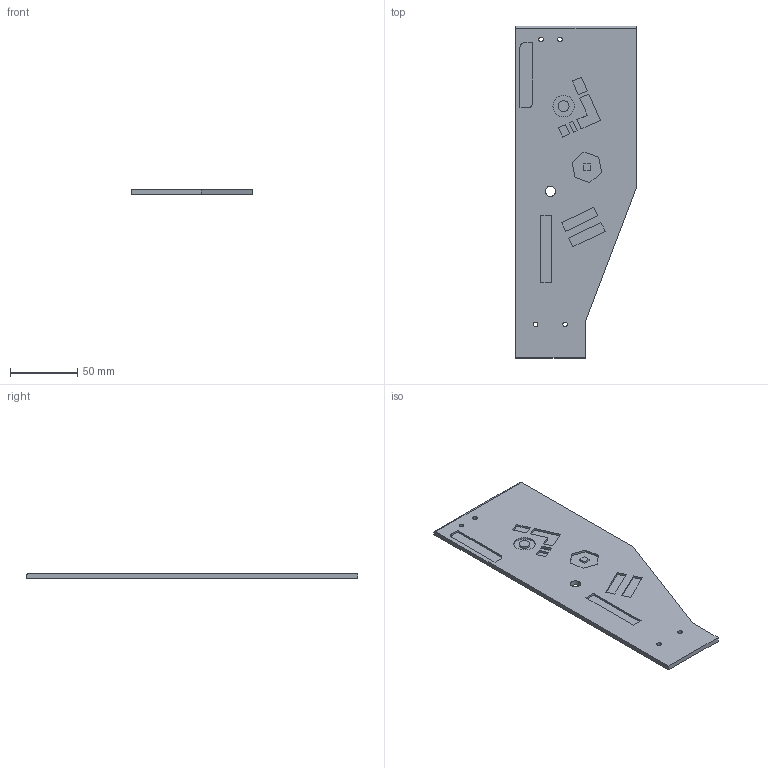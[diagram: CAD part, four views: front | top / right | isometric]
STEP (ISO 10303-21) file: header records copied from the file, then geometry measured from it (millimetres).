
FILE_DESCRIPTION(/* description */ ('STEP AP242 Edition 2','CAx-IF Rec.Pracs.---Representation and Presentation of Product Manufacturing Information (PMI)---4.0---2014-10-13','CAx-IF Rec.Pracs.---3D Tessellated Geometry---0.4---2014-09-14','2;1','CAx-IF Rec.Pracs.---User Defined Attributes---1.5---2016-08-15'),/* implementation_level */ '2;1');
FILE_NAME(/* name */ 'Arm Parts - Arm1(Other Side)',/* time_stamp */ '2026-04-22T00:04:13Z',/* author */ (''),/* organization */ (''),/* preprocessor_version */ 'ST-DEVELOPER v20',/* originating_system */ 'ONSHAPE BY PTC INC, 1.213',/* authorisation */ ' ');
FILE_SCHEMA (('AP242_MANAGED_MODEL_BASED_3D_ENGINEERING_MIM_LF { 1 0 10303 442 3 1 4 }'));
Length unit declared in the file: metre
Products named in the file (1): Arm1(Other Side)
Bounding box: 90 x 247 x 3.5 mm (x, y, z)
Volume: 64098.7 mm3; surface area: 41881.4 mm2
Topology: 1 solids, 1 shells, 74 faces, 180 edges, 120 vertices
Faces by surface type: plane 64, cylinder 10
Full cylindrical faces by diameter (mm): 3.4 x4, 7.5 x1, 8 x1, 16 x1
Entity records: 2151 total; most frequent: CARTESIAN_POINT 368, ORIENTED_EDGE 346, DIRECTION 343, EDGE_CURVE 173, LINE 153, VECTOR 153, VERTEX_POINT 120, EDGE_LOOP 103
